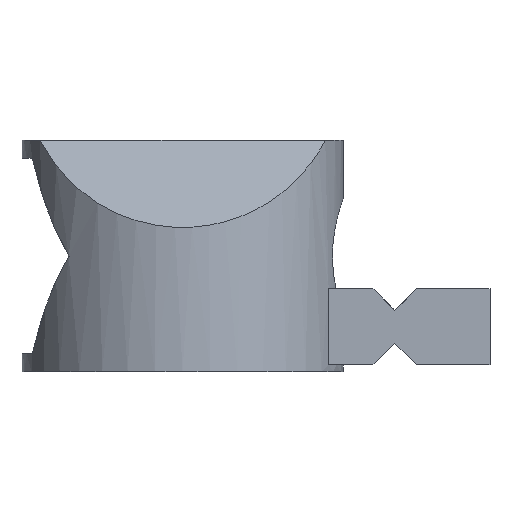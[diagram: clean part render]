
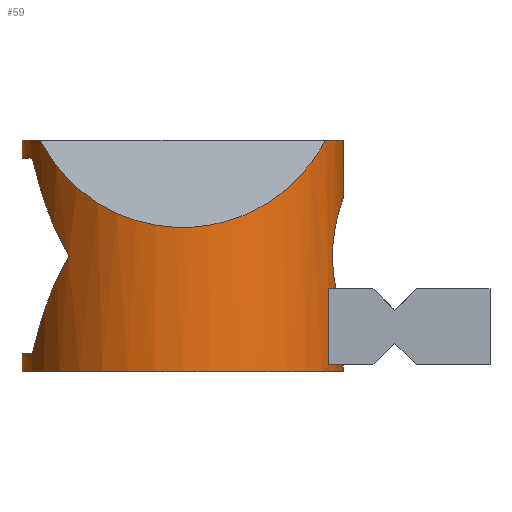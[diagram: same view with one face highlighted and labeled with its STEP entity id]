
A CAD part, front view. The second image highlights one B-rep face of the part: STEP entity #59.
In plain terms, the highlighted cylindrical face has radius 5.9 mm (diameter 11.8 mm), a partial arc.
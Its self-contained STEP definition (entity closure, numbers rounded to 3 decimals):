
#59=ADVANCED_FACE('NONE',(#142),#143,.T.);
#142=FACE_OUTER_BOUND('',#247,.T.);
#143=CYLINDRICAL_SURFACE('',#248,5.9);
#247=EDGE_LOOP('',(#352,#353,#354,#355,#356,#357,#358,#359,#360,#361,#362,#363,#364,#365,#366,#367,#368,#369));
#248=AXIS2_PLACEMENT_3D('',#370,#371,#372);
#352=ORIENTED_EDGE('',*,*,#658,.F.);
#353=ORIENTED_EDGE('',*,*,#659,.F.);
#354=ORIENTED_EDGE('',*,*,#660,.F.);
#355=ORIENTED_EDGE('',*,*,#661,.F.);
#356=ORIENTED_EDGE('',*,*,#662,.T.);
#357=ORIENTED_EDGE('',*,*,#663,.F.);
#358=ORIENTED_EDGE('',*,*,#664,.F.);
#359=ORIENTED_EDGE('',*,*,#665,.F.);
#360=ORIENTED_EDGE('',*,*,#666,.F.);
#361=ORIENTED_EDGE('',*,*,#667,.T.);
#362=ORIENTED_EDGE('',*,*,#668,.T.);
#363=ORIENTED_EDGE('',*,*,#669,.F.);
#364=ORIENTED_EDGE('',*,*,#654,.F.);
#365=ORIENTED_EDGE('',*,*,#670,.F.);
#366=ORIENTED_EDGE('',*,*,#671,.F.);
#367=ORIENTED_EDGE('',*,*,#672,.F.);
#368=ORIENTED_EDGE('',*,*,#673,.F.);
#369=ORIENTED_EDGE('',*,*,#674,.T.);
#370=CARTESIAN_POINT('',(0.0,0.0,8.5));
#371=DIRECTION('',(0.0,0.0,1.0));
#372=DIRECTION('',(-1.0,0.0,0.0));
#654=EDGE_CURVE('NONE',#778,#780,#781,.T.);
#658=EDGE_CURVE('NONE',#786,#787,#788,.T.);
#659=EDGE_CURVE('NONE',#789,#786,#790,.T.);
#660=EDGE_CURVE('NONE',#791,#789,#792,.T.);
#661=EDGE_CURVE('NONE',#793,#791,#794,.T.);
#662=EDGE_CURVE('NONE',#793,#795,#796,.T.);
#663=EDGE_CURVE('NONE',#797,#795,#798,.T.);
#664=EDGE_CURVE('NONE',#799,#797,#800,.T.);
#665=EDGE_CURVE('NONE',#801,#799,#802,.T.);
#666=EDGE_CURVE('NONE',#803,#801,#804,.T.);
#667=EDGE_CURVE('NONE',#803,#805,#806,.T.);
#668=EDGE_CURVE('NONE',#805,#807,#808,.T.);
#669=EDGE_CURVE('NONE',#780,#807,#809,.T.);
#670=EDGE_CURVE('NONE',#810,#778,#811,.T.);
#671=EDGE_CURVE('NONE',#812,#810,#813,.T.);
#672=EDGE_CURVE('NONE',#814,#812,#815,.T.);
#673=EDGE_CURVE('NONE',#816,#814,#817,.T.);
#674=EDGE_CURVE('NONE',#816,#787,#818,.T.);
#778=VERTEX_POINT('NONE',#961);
#780=VERTEX_POINT('NONE',#964);
#781=CIRCLE('',#965,5.9);
#786=VERTEX_POINT('NONE',#971);
#787=VERTEX_POINT('NONE',#972);
#788=LINE('',#973,#974);
#789=VERTEX_POINT('NONE',#975);
#790=CIRCLE('',#976,5.9);
#791=VERTEX_POINT('NONE',#977);
#792=(B_SPLINE_CURVE(3,(#979,#980,#981,#982),.UNSPECIFIED.,.F.,.F.)B_SPLINE_CURVE_WITH_KNOTS((4,4),(5.188,7.379),.UNSPECIFIED.)RATIONAL_B_SPLINE_CURVE((1.0,0.638,0.638,1.0))BOUNDED_CURVE()REPRESENTATION_ITEM('')GEOMETRIC_REPRESENTATION_ITEM()CURVE());
#793=VERTEX_POINT('NONE',#989);
#794=CIRCLE('',#990,5.9);
#795=VERTEX_POINT('NONE',#991);
#796=LINE('',#992,#993);
#797=VERTEX_POINT('NONE',#994);
#798=CIRCLE('',#995,5.9);
#799=VERTEX_POINT('NONE',#996);
#800=(B_SPLINE_CURVE(3,(#998,#999,#1000,#1001),.UNSPECIFIED.,.F.,.F.)B_SPLINE_CURVE_WITH_KNOTS((4,4),(0.789,1.211),.UNSPECIFIED.)RATIONAL_B_SPLINE_CURVE((1.0,0.985,0.985,1.0))BOUNDED_CURVE()REPRESENTATION_ITEM('')GEOMETRIC_REPRESENTATION_ITEM()CURVE());
#801=VERTEX_POINT('NONE',#1008);
#802=(B_SPLINE_CURVE(3,(#1010,#1011,#1012,#1013),.UNSPECIFIED.,.F.,.F.)B_SPLINE_CURVE_WITH_KNOTS((4,4),(1.931,2.353),.UNSPECIFIED.)RATIONAL_B_SPLINE_CURVE((1.0,0.985,0.985,1.0))BOUNDED_CURVE()REPRESENTATION_ITEM('')GEOMETRIC_REPRESENTATION_ITEM()CURVE());
#803=VERTEX_POINT('NONE',#1020);
#804=CIRCLE('',#1021,5.9);
#805=VERTEX_POINT('NONE',#1022);
#806=LINE('',#1023,#1024);
#807=VERTEX_POINT('NONE',#1025);
#808=CIRCLE('',#1026,5.9);
#809=LINE('',#1027,#1028);
#810=VERTEX_POINT('NONE',#1029);
#811=LINE('',#1030,#1031);
#812=VERTEX_POINT('NONE',#1032);
#813=CIRCLE('',#1033,5.9);
#814=VERTEX_POINT('NONE',#1034);
#815=B_SPLINE_CURVE_WITH_KNOTS('',3,(#1035,#1036,#1037,#1038,#1039,#1040,#1041,#1042,#1043,#1044),.UNSPECIFIED.,.F.,.F.,(4,2,2,2,4),(0.002,0.003,0.003,0.004,0.004),.UNSPECIFIED.);
#816=VERTEX_POINT('NONE',#1045);
#817=LINE('',#1046,#1047);
#818=B_SPLINE_CURVE_WITH_KNOTS('',3,(#1048,#1049,#1050,#1051,#1052,#1053,#1054,#1055,#1056,#1057,#1058,#1059,#1060,#1061,#1062,#1063,#1064,#1065,#1066,#1067,#1068,#1069,#1070,#1071,#1072,#1073,#1074,#1075,#1076,#1077,#1078,#1079),.UNSPECIFIED.,.F.,.F.,(4,2,2,2,2,2,2,2,2,2,2,2,2,2,2,4),(0.007,0.007,0.007,0.008,0.008,0.009,0.01,0.01,0.01,0.011,0.011,0.012,0.012,0.012,0.013,0.013),.UNSPECIFIED.);
#961=CARTESIAN_POINT('',(5.367,-2.45,0.25));
#964=CARTESIAN_POINT('',(5.9,0.,0.25));
#965=AXIS2_PLACEMENT_3D('',#1378,#1379,#1380);
#971=CARTESIAN_POINT('',(5.9,0.,8.5));
#972=CARTESIAN_POINT('',(5.9,0.,6.35));
#973=CARTESIAN_POINT('',(5.9,0.,8.5));
#974=VECTOR('',#1385,1000.0);
#975=CARTESIAN_POINT('',(5.246,-2.7,8.5));
#976=AXIS2_PLACEMENT_3D('',#1386,#1387,#1388);
#977=CARTESIAN_POINT('',(-5.246,-2.7,8.5));
#979=CARTESIAN_POINT('',(-5.246,-2.7,8.5));
#980=CARTESIAN_POINT('',(-2.739,-7.571,3.629));
#981=CARTESIAN_POINT('',(2.739,-7.571,3.629));
#982=CARTESIAN_POINT('',(5.246,-2.7,8.5));
#989=CARTESIAN_POINT('',(-5.9,0.0,8.5));
#990=AXIS2_PLACEMENT_3D('',#1389,#1390,#1391);
#991=CARTESIAN_POINT('',(-5.9,0.0,7.85));
#992=CARTESIAN_POINT('',(-5.9,0.0,8.5));
#993=VECTOR('',#1392,1000.0);
#994=CARTESIAN_POINT('',(-5.522,-2.078,7.85));
#995=AXIS2_PLACEMENT_3D('',#1393,#1394,#1395);
#996=CARTESIAN_POINT('',(-4.187,-4.157,4.25));
#998=CARTESIAN_POINT('',(-4.187,-4.157,4.25));
#999=CARTESIAN_POINT('',(-4.776,-3.564,5.277));
#1000=CARTESIAN_POINT('',(-5.227,-2.861,6.495));
#1001=CARTESIAN_POINT('',(-5.522,-2.078,7.85));
#1008=CARTESIAN_POINT('',(-5.522,-2.078,0.65));
#1010=CARTESIAN_POINT('',(-5.522,-2.078,0.65));
#1011=CARTESIAN_POINT('',(-5.227,-2.861,2.005));
#1012=CARTESIAN_POINT('',(-4.776,-3.564,3.223));
#1013=CARTESIAN_POINT('',(-4.187,-4.157,4.25));
#1020=CARTESIAN_POINT('',(-5.9,0.0,0.65));
#1021=AXIS2_PLACEMENT_3D('',#1396,#1397,#1398);
#1022=CARTESIAN_POINT('',(-5.9,0.0,0.0));
#1023=CARTESIAN_POINT('',(-5.9,0.0,8.5));
#1024=VECTOR('',#1399,1000.0);
#1025=CARTESIAN_POINT('',(5.9,0.,0.0));
#1026=AXIS2_PLACEMENT_3D('',#1400,#1401,#1402);
#1027=CARTESIAN_POINT('',(5.9,0.,8.5));
#1028=VECTOR('',#1403,1000.0);
#1029=CARTESIAN_POINT('',(5.367,-2.45,3.05));
#1030=CARTESIAN_POINT('',(5.367,-2.45,8.5));
#1031=VECTOR('',#1404,1000.0);
#1032=CARTESIAN_POINT('',(5.604,-1.844,3.05));
#1033=AXIS2_PLACEMENT_3D('',#1405,#1406,#1407);
#1034=CARTESIAN_POINT('',(5.9,0.,2.05));
#1035=CARTESIAN_POINT('',(5.9,0.,2.05));
#1036=CARTESIAN_POINT('',(5.9,-0.185,2.05));
#1037=CARTESIAN_POINT('',(5.891,-0.369,2.073));
#1038=CARTESIAN_POINT('',(5.858,-0.723,2.164));
#1039=CARTESIAN_POINT('',(5.834,-0.896,2.233));
#1040=CARTESIAN_POINT('',(5.776,-1.214,2.406));
#1041=CARTESIAN_POINT('',(5.742,-1.363,2.514));
#1042=CARTESIAN_POINT('',(5.673,-1.628,2.759));
#1043=CARTESIAN_POINT('',(5.637,-1.744,2.897));
#1044=CARTESIAN_POINT('',(5.604,-1.844,3.05));
#1045=CARTESIAN_POINT('',(5.9,0.,2.15));
#1046=CARTESIAN_POINT('',(5.9,0.,8.5));
#1047=VECTOR('',#1408,1000.0);
#1048=CARTESIAN_POINT('',(5.9,0.,2.15));
#1049=CARTESIAN_POINT('',(5.9,-0.138,2.15));
#1050=CARTESIAN_POINT('',(5.895,-0.277,2.164));
#1051=CARTESIAN_POINT('',(5.876,-0.549,2.218));
#1052=CARTESIAN_POINT('',(5.862,-0.681,2.259));
#1053=CARTESIAN_POINT('',(5.827,-0.934,2.364));
#1054=CARTESIAN_POINT('',(5.806,-1.057,2.43));
#1055=CARTESIAN_POINT('',(5.76,-1.283,2.582));
#1056=CARTESIAN_POINT('',(5.735,-1.389,2.669));
#1057=CARTESIAN_POINT('',(5.659,-1.68,2.96));
#1058=CARTESIAN_POINT('',(5.609,-1.833,3.189));
#1059=CARTESIAN_POINT('',(5.554,-1.992,3.571));
#1060=CARTESIAN_POINT('',(5.539,-2.032,3.702));
#1061=CARTESIAN_POINT('',(5.519,-2.086,3.972));
#1062=CARTESIAN_POINT('',(5.514,-2.1,4.112));
#1063=CARTESIAN_POINT('',(5.514,-2.1,4.389));
#1064=CARTESIAN_POINT('',(5.519,-2.086,4.526));
#1065=CARTESIAN_POINT('',(5.539,-2.032,4.798));
#1066=CARTESIAN_POINT('',(5.554,-1.991,4.931));
#1067=CARTESIAN_POINT('',(5.591,-1.886,5.184));
#1068=CARTESIAN_POINT('',(5.613,-1.82,5.306));
#1069=CARTESIAN_POINT('',(5.66,-1.667,5.534));
#1070=CARTESIAN_POINT('',(5.685,-1.581,5.639));
#1071=CARTESIAN_POINT('',(5.735,-1.389,5.831));
#1072=CARTESIAN_POINT('',(5.76,-1.281,5.919));
#1073=CARTESIAN_POINT('',(5.806,-1.055,6.071));
#1074=CARTESIAN_POINT('',(5.827,-0.935,6.135));
#1075=CARTESIAN_POINT('',(5.862,-0.68,6.242));
#1076=CARTESIAN_POINT('',(5.876,-0.547,6.282));
#1077=CARTESIAN_POINT('',(5.895,-0.277,6.336));
#1078=CARTESIAN_POINT('',(5.9,-0.14,6.35));
#1079=CARTESIAN_POINT('',(5.9,0.,6.35));
#1378=CARTESIAN_POINT('',(0.0,0.0,0.25));
#1379=DIRECTION('',(0.,0.,1.0));
#1380=DIRECTION('',(0.,1.0,0.));
#1385=DIRECTION('',(-0.0,-0.0,-1.0));
#1386=CARTESIAN_POINT('',(0.0,0.0,8.5));
#1387=DIRECTION('',(0.0,0.0,1.0));
#1388=DIRECTION('',(1.0,0.0,0.0));
#1389=CARTESIAN_POINT('',(0.0,0.0,8.5));
#1390=DIRECTION('',(0.0,0.0,1.0));
#1391=DIRECTION('',(1.0,0.0,0.0));
#1392=DIRECTION('',(-0.0,-0.0,-1.0));
#1393=CARTESIAN_POINT('',(0.0,0.0,7.85));
#1394=DIRECTION('',(0.0,0.0,-1.0));
#1395=DIRECTION('',(-1.0,0.0,0.0));
#1396=CARTESIAN_POINT('',(0.0,0.0,0.65));
#1397=DIRECTION('',(0.0,0.,1.0));
#1398=DIRECTION('',(0.0,-1.0,0.));
#1399=DIRECTION('',(-0.0,-0.0,-1.0));
#1400=CARTESIAN_POINT('',(0.0,0.0,0.0));
#1401=DIRECTION('',(0.0,0.0,1.0));
#1402=DIRECTION('',(1.0,0.0,0.0));
#1403=DIRECTION('',(-0.0,-0.0,-1.0));
#1404=DIRECTION('',(-0.0,-0.0,-1.0));
#1405=CARTESIAN_POINT('',(0.0,0.0,3.05));
#1406=DIRECTION('',(-0.0,0.,-1.0));
#1407=DIRECTION('',(0.0,-1.0,0.));
#1408=DIRECTION('',(-0.0,-0.0,-1.0));
